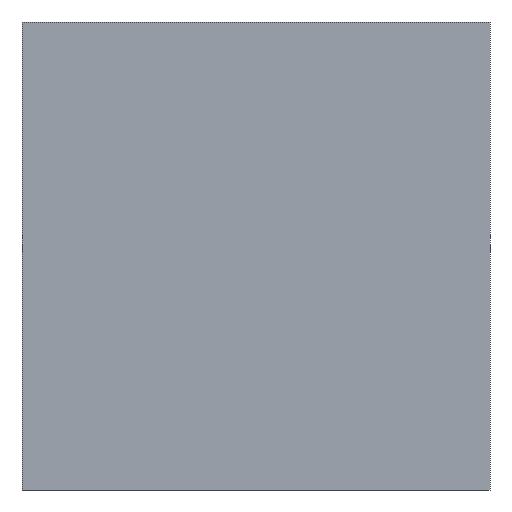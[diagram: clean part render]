
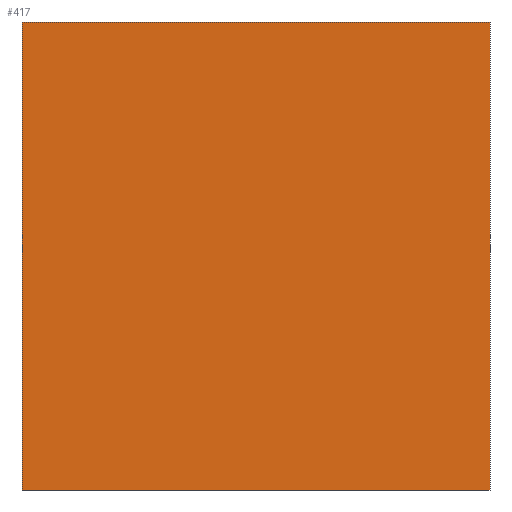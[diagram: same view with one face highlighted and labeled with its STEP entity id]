
A CAD part, front view. The second image highlights one B-rep face of the part: STEP entity #417.
In plain terms, the highlighted planar face has unit normal (0, -1, 0).
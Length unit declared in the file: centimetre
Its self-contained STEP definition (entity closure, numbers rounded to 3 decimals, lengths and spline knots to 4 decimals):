
#32 = PLANE ( 'NONE',  #186 ) ;
#37 = ORIENTED_EDGE ( 'NONE', *, *, #144, .F. ) ;
#49 = DIRECTION ( 'NONE',  ( 0., 0., -1. ) ) ;
#60 = LINE ( 'NONE', #313, #341 ) ;
#82 = ORIENTED_EDGE ( 'NONE', *, *, #437, .T. ) ;
#83 = VERTEX_POINT ( 'NONE', #354 ) ;
#89 = CARTESIAN_POINT ( 'NONE',  ( 0., 0., 1000. ) ) ;
#91 = CARTESIAN_POINT ( 'NONE',  ( 0., 0., 0. ) ) ;
#99 = FACE_OUTER_BOUND ( 'NONE', #394, .T. ) ;
#124 = LINE ( 'NONE', #277, #453 ) ;
#126 = EDGE_CURVE ( 'NONE', #130, #83, #60, .T. ) ;
#130 = VERTEX_POINT ( 'NONE', #91 ) ;
#141 = VERTEX_POINT ( 'NONE', #387 ) ;
#144 = EDGE_CURVE ( 'NONE', #141, #151, #124, .T. ) ;
#151 = VERTEX_POINT ( 'NONE', #382 ) ;
#179 = CARTESIAN_POINT ( 'NONE',  ( 1000., 0., 1000. ) ) ;
#186 = AXIS2_PLACEMENT_3D ( 'NONE', #236, #458, #279 ) ;
#227 = DIRECTION ( 'NONE',  ( 0., 0., -1. ) ) ;
#236 = CARTESIAN_POINT ( 'NONE',  ( 0., 0., 1000. ) ) ;
#277 = CARTESIAN_POINT ( 'NONE',  ( 0., 0., 1000. ) ) ;
#279 = DIRECTION ( 'NONE',  ( 0., 0., 1. ) ) ;
#310 = VECTOR ( 'NONE', #49, 100. ) ;
#313 = CARTESIAN_POINT ( 'NONE',  ( 0., 0., 0. ) ) ;
#315 = EDGE_CURVE ( 'NONE', #151, #83, #372, .T. ) ;
#330 = VECTOR ( 'NONE', #227, 100. ) ;
#331 = ORIENTED_EDGE ( 'NONE', *, *, #315, .F. ) ;
#341 = VECTOR ( 'NONE', #359, 100. ) ;
#354 = CARTESIAN_POINT ( 'NONE',  ( 1000., 0., 0. ) ) ;
#359 = DIRECTION ( 'NONE',  ( 1., 0., 0. ) ) ;
#372 = LINE ( 'NONE', #179, #310 ) ;
#382 = CARTESIAN_POINT ( 'NONE',  ( 1000., 0., 1000. ) ) ;
#387 = CARTESIAN_POINT ( 'NONE',  ( 0., 0., 1000. ) ) ;
#394 = EDGE_LOOP ( 'NONE', ( #395, #331, #37, #82 ) ) ;
#395 = ORIENTED_EDGE ( 'NONE', *, *, #126, .T. ) ;
#415 = LINE ( 'NONE', #89, #330 ) ;
#417 = ADVANCED_FACE ( 'NONE', ( #99 ), #32, .F. ) ;
#437 = EDGE_CURVE ( 'NONE', #141, #130, #415, .T. ) ;
#453 = VECTOR ( 'NONE', #456, 100. ) ;
#456 = DIRECTION ( 'NONE',  ( 1., 0., 0. ) ) ;
#458 = DIRECTION ( 'NONE',  ( 0., 1., 0. ) ) ;
